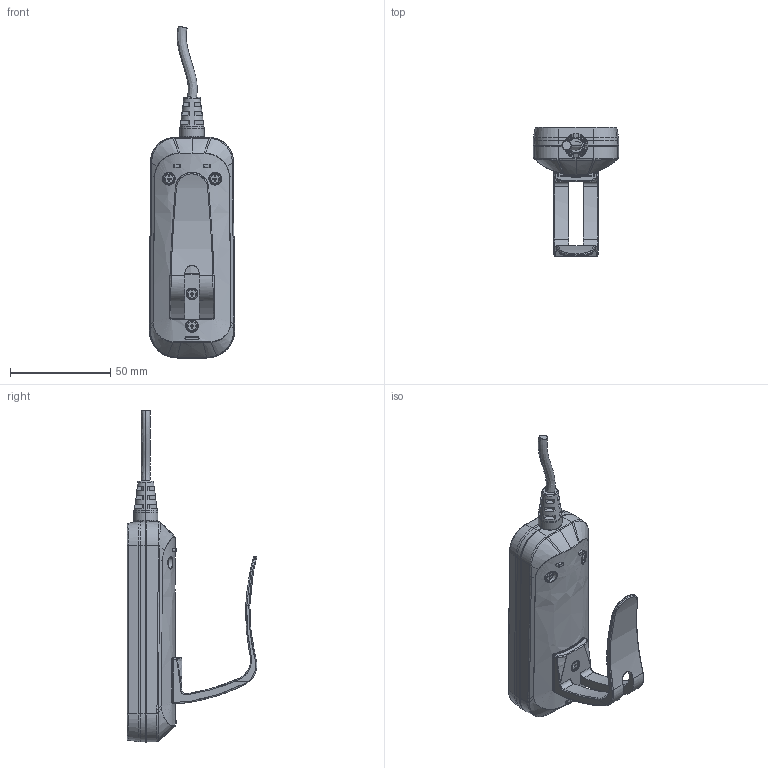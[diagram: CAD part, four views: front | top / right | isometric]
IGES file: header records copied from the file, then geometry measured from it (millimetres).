
Start section: SolidWorks IGES file using NURBS representation for surfaces
Global section: file name: C:\Users\lynn\Desktop\h2b.IGS; native system: SolidWorks 2015; preprocessor: SolidWorks 2015; author: lynn; date: 200615.174141; units: millimetre
Bounding box: 42.74 x 64.61 x 165.56 mm (x, y, z)
Surface area: 44079.9 mm2 (no closed solid volume)
Topology: 0 solids, 0 shells, 943 faces, 10465 edges, 10455 vertices
Faces by surface type: bspline 943
